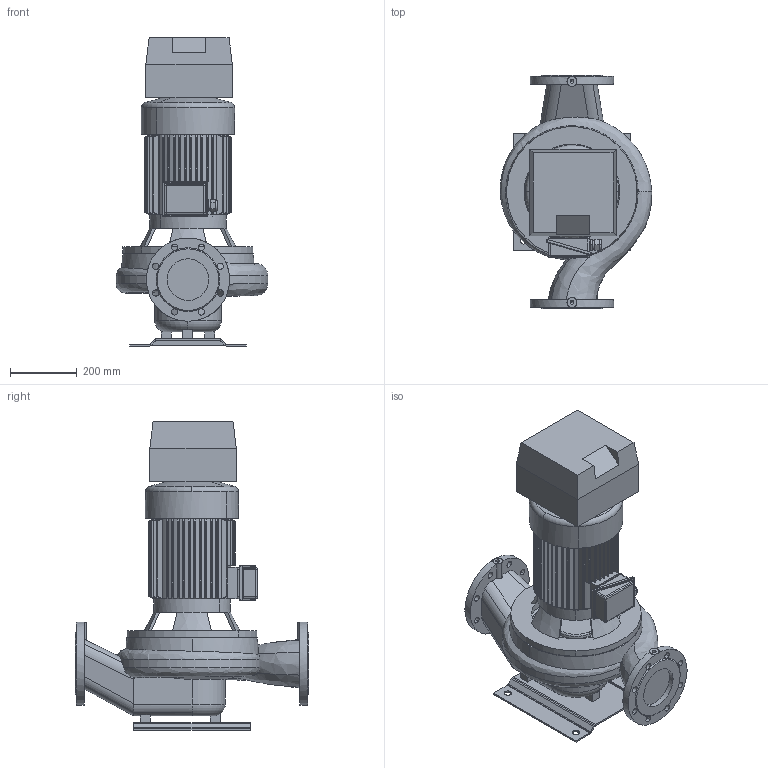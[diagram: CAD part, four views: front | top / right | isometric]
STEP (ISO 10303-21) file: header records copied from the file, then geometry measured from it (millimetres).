
FILE_DESCRIPTION(('STEP AP214'),'1');
FILE_NAME('export.stp','2018-08-08T12:24:48',(' '),(' '),'Spatial InterOp 3D',' ',' ');
FILE_SCHEMA(('AUTOMOTIVE_DESIGN { 1 0 10303 214 1 1 1 1 }'));
Length unit declared in the file: millimetre
Products named in the file (12): V_MOKN133; RU_OKN_133; TSUOJA_OKN_132_133; KYTKOTELO_OKN_100_133; W_AL11294NC550KP; V_EKF31OKN132133; V_TL110611291154; V_PPAL1129; P100496; P100495; P100342; NC_Size2
Assembly tree (12 placements, depth 3):
  W_AL11294NC550KP
    V_MOKN133
      RU_OKN_133
      TSUOJA_OKN_132_133
      KYTKOTELO_OKN_100_133
    V_EKF31OKN132133
    V_TL110611291154
    V_PPAL1129
    P100496
      P100495  x2
      P100342
    NC_Size2
Bounding box: 455.87 x 700 x 926.5 mm (x, y, z)
Volume: 59504528.7 mm3; surface area: 2880021.2 mm2
Topology: 10 solids, 11 shells, 774 faces, 2008 edges, 1252 vertices
Faces by surface type: cylinder 342, plane 287, cone 104, torus 16, bspline 13, sphere 12
Entity records: 40549 total; most frequent: CARTESIAN_POINT 8751, ORIENTED_EDGE 3948, DIRECTION 3826, STYLED_ITEM 2191, PRESENTATION_STYLE_ASSIGNMENT 2191, COLOUR_RGB 2191, EDGE_CURVE 1974, AXIS2_PLACEMENT_3D 1529
